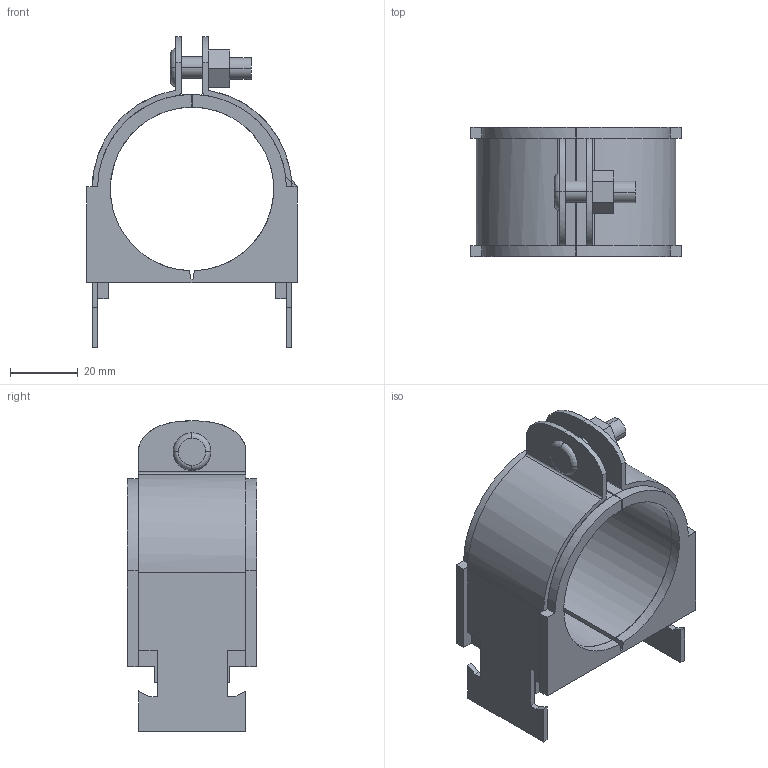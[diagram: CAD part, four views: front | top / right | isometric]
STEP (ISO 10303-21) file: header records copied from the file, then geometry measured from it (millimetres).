
FILE_DESCRIPTION(('TurboCAD Mac Pro'),'Build 980');
FILE_NAME('030N034.stp',' ',(''),(''),'ACIS Interop','IMSI','TurboCAD Mac Pro BY IMSI, INCORPORATED');
FILE_SCHEMA(('automotive_design'));
Length unit declared in the file: inch
Products named in the file (3): 1; 2; 3
Bounding box: 62.11 x 38.1 x 91.69 mm (x, y, z)
Volume: 48519 mm3; surface area: 30770.7 mm2
Topology: 3 solids, 3 shells, 144 faces, 383 edges, 250 vertices
Faces by surface type: plane 98, bspline 46
Entity records: 6957 total; most frequent: CARTESIAN_POINT 1746, ORIENTED_EDGE 766, DIRECTION 481, EDGE_CURVE 383, STYLED_ITEM 299, PRESENTATION_STYLE_ASSIGNMENT 299, COLOUR_RGB 299, LINE 271
